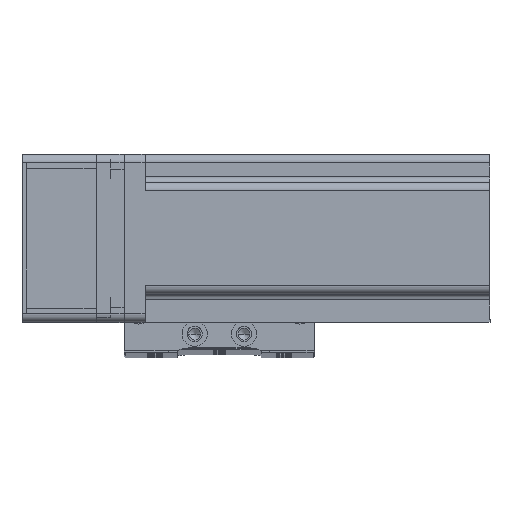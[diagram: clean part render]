
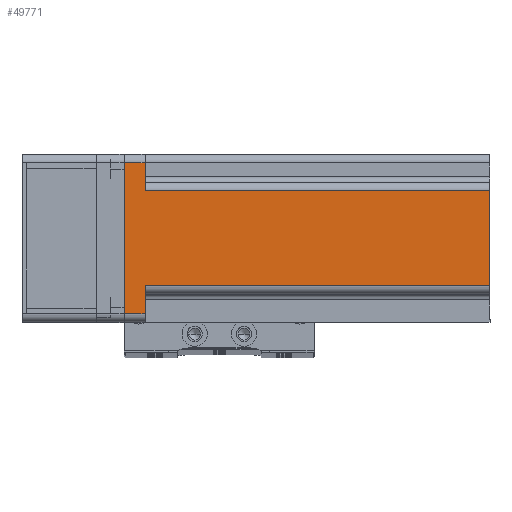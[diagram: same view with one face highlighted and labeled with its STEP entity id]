
A CAD part, top view. The second image highlights one B-rep face of the part: STEP entity #49771.
In plain terms, the highlighted planar face has unit normal (0, 0, 1) as drawn and (0, 1, 0) by its records, which use the part's own axes.
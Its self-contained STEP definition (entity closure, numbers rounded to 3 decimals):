
#359 = ORIENTED_EDGE ( 'NONE', *, *, #5774, .F. ) ;
#1516 = ORIENTED_EDGE ( 'NONE', *, *, #9631, .T. ) ;
#2235 = EDGE_CURVE ( 'NONE', #15224, #4838, #52943, .T. ) ;
#2331 = CARTESIAN_POINT ( 'NONE',  ( -17., 30., 130.7 ) ) ;
#2634 = DIRECTION ( 'NONE',  ( -1., 0., 0. ) ) ;
#4116 = EDGE_CURVE ( 'NONE', #4838, #4311, #12102, .T. ) ;
#4311 = VERTEX_POINT ( 'NONE', #2331 ) ;
#4838 = VERTEX_POINT ( 'NONE', #6100 ) ;
#4911 = CARTESIAN_POINT ( 'NONE',  ( -27., 30., 130.7 ) ) ;
#5612 = CARTESIAN_POINT ( 'NONE',  ( 27., 30., 130.7 ) ) ;
#5774 = EDGE_CURVE ( 'NONE', #31674, #40536, #29174, .T. ) ;
#6088 = ORIENTED_EDGE ( 'NONE', *, *, #2235, .T. ) ;
#6100 = CARTESIAN_POINT ( 'NONE',  ( -17., 30., 7.5 ) ) ;
#7179 = LINE ( 'NONE', #51109, #18525 ) ;
#8353 = VERTEX_POINT ( 'NONE', #33668 ) ;
#8374 = CARTESIAN_POINT ( 'NONE',  ( 30., 30., 130.7 ) ) ;
#8409 = DIRECTION ( 'NONE',  ( -1., 0., 0. ) ) ;
#8483 = LINE ( 'NONE', #12310, #52578 ) ;
#9631 = EDGE_CURVE ( 'NONE', #42716, #40536, #7179, .T. ) ;
#9865 = VECTOR ( 'NONE', #17792, 1000. ) ;
#12102 = LINE ( 'NONE', #47531, #54886 ) ;
#12310 = CARTESIAN_POINT ( 'NONE',  ( 30., 30., 130.7 ) ) ;
#12670 = DIRECTION ( 'NONE',  ( 1., 0., 0. ) ) ;
#15224 = VERTEX_POINT ( 'NONE', #23755 ) ;
#16876 = CARTESIAN_POINT ( 'NONE',  ( 17., 30., 130.7 ) ) ;
#17652 = DIRECTION ( 'NONE',  ( 0., 0., 1. ) ) ;
#17792 = DIRECTION ( 'NONE',  ( 0., 0., 1. ) ) ;
#18525 = VECTOR ( 'NONE', #46811, 1000. ) ;
#19649 = CARTESIAN_POINT ( 'NONE',  ( 30., 30., 0. ) ) ;
#20101 = CARTESIAN_POINT ( 'NONE',  ( 17., 30., 7.5 ) ) ;
#20318 = FACE_OUTER_BOUND ( 'NONE', #53298, .T. ) ;
#21243 = LINE ( 'NONE', #4911, #9865 ) ;
#22443 = VECTOR ( 'NONE', #2634, 1000. ) ;
#23268 = ORIENTED_EDGE ( 'NONE', *, *, #54255, .T. ) ;
#23381 = ORIENTED_EDGE ( 'NONE', *, *, #41776, .F. ) ;
#23755 = CARTESIAN_POINT ( 'NONE',  ( -27., 30., 7.5 ) ) ;
#23994 = ORIENTED_EDGE ( 'NONE', *, *, #4116, .T. ) ;
#26608 = CARTESIAN_POINT ( 'NONE',  ( 27., 30., 7.5 ) ) ;
#29174 = LINE ( 'NONE', #34007, #40476 ) ;
#29312 = AXIS2_PLACEMENT_3D ( 'NONE', #8374, #38203, #12670 ) ;
#29762 = LINE ( 'NONE', #5612, #39712 ) ;
#31199 = DIRECTION ( 'NONE',  ( 0., 0., -1. ) ) ;
#31674 = VERTEX_POINT ( 'NONE', #26608 ) ;
#32543 = VERTEX_POINT ( 'NONE', #41581 ) ;
#33668 = CARTESIAN_POINT ( 'NONE',  ( 27., 30., 0. ) ) ;
#33778 = PLANE ( 'NONE',  #29312 ) ;
#33838 = LINE ( 'NONE', #19649, #22443 ) ;
#34007 = CARTESIAN_POINT ( 'NONE',  ( 20., 30., 7.5 ) ) ;
#36882 = CARTESIAN_POINT ( 'NONE',  ( -20., 30., 7.5 ) ) ;
#37862 = DIRECTION ( 'NONE',  ( -1., 0., 0. ) ) ;
#38122 = ORIENTED_EDGE ( 'NONE', *, *, #50384, .T. ) ;
#38203 = DIRECTION ( 'NONE',  ( 0., -1., 0. ) ) ;
#39712 = VECTOR ( 'NONE', #31199, 1000. ) ;
#40476 = VECTOR ( 'NONE', #8409, 1000. ) ;
#40536 = VERTEX_POINT ( 'NONE', #20101 ) ;
#41581 = CARTESIAN_POINT ( 'NONE',  ( -27., 30., 0. ) ) ;
#41776 = EDGE_CURVE ( 'NONE', #42716, #4311, #8483, .T. ) ;
#42716 = VERTEX_POINT ( 'NONE', #16876 ) ;
#46811 = DIRECTION ( 'NONE',  ( 0., 0., -1. ) ) ;
#47531 = CARTESIAN_POINT ( 'NONE',  ( -17., 30., 130.7 ) ) ;
#49092 = EDGE_CURVE ( 'NONE', #8353, #32543, #33838, .T. ) ;
#49771 = ADVANCED_FACE ( 'NONE', ( #20318 ), #33778, .F. ) ;
#49808 = DIRECTION ( 'NONE',  ( 1., 0., 0. ) ) ;
#50384 = EDGE_CURVE ( 'NONE', #32543, #15224, #21243, .T. ) ;
#51109 = CARTESIAN_POINT ( 'NONE',  ( 17., 30., 130.7 ) ) ;
#51570 = VECTOR ( 'NONE', #49808, 1000. ) ;
#52578 = VECTOR ( 'NONE', #37862, 1000. ) ;
#52943 = LINE ( 'NONE', #36882, #51570 ) ;
#53298 = EDGE_LOOP ( 'NONE', ( #6088, #23994, #23381, #1516, #359, #23268, #54275, #38122 ) ) ;
#54255 = EDGE_CURVE ( 'NONE', #31674, #8353, #29762, .T. ) ;
#54275 = ORIENTED_EDGE ( 'NONE', *, *, #49092, .T. ) ;
#54886 = VECTOR ( 'NONE', #17652, 1000. ) ;
